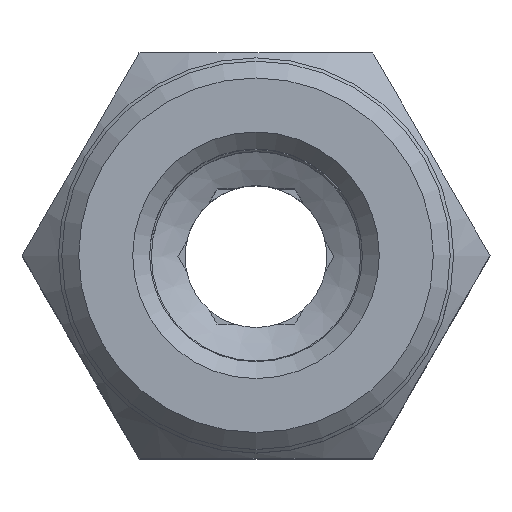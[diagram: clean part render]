
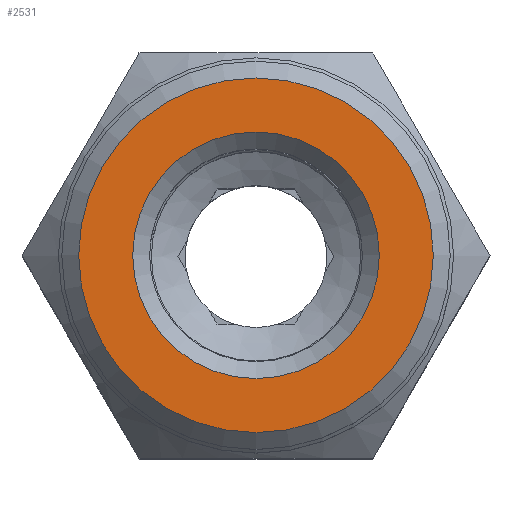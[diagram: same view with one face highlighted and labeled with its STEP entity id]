
A CAD part, top view. The second image highlights one B-rep face of the part: STEP entity #2531.
In plain terms, the highlighted planar face has unit normal (0, 0, 1) as drawn and (0, 1, 0) by its records, which use the part's own axes.
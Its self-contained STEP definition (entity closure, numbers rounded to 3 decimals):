
#1531=ORIENTED_EDGE('',*,*,#1781,.T.);
#1532=ORIENTED_EDGE('',*,*,#1782,.F.);
#1583=CIRCLE('',#2431,5.25);
#1584=CIRCLE('',#2433,3.65);
#1667=VERTEX_POINT('',#2789);
#1668=VERTEX_POINT('',#2792);
#1781=EDGE_CURVE('',#1667,#1667,#1583,.T.);
#1782=EDGE_CURVE('',#1668,#1668,#1584,.T.);
#1871=EDGE_LOOP('',(#1531));
#1872=EDGE_LOOP('',(#1532));
#1965=FACE_BOUND('',#1871,.T.);
#1966=FACE_BOUND('',#1872,.T.);
#2277=DIRECTION('',(0.,1.,0.));
#2278=DIRECTION('',(0.,0.,-5.25));
#2279=DIRECTION('',(0.,1.,0.));
#2280=DIRECTION('',(1.,0.,0.));
#2281=DIRECTION('',(0.,1.,0.));
#2282=DIRECTION('',(0.,0.,-3.65));
#2431=AXIS2_PLACEMENT_3D('',#2790,#2277,#2278);
#2432=AXIS2_PLACEMENT_3D('',#2791,#2279,#2280);
#2433=AXIS2_PLACEMENT_3D('',#2793,#2281,#2282);
#2472=PLANE('',#2432);
#2531=ADVANCED_FACE('',(#1965,#1966),#2472,.T.);
#2789=CARTESIAN_POINT('',(-6.527,-57.636,0.));
#2790=CARTESIAN_POINT('',(-1.277,-57.636,0.));
#2791=CARTESIAN_POINT('',(-1.277,-57.636,0.));
#2792=CARTESIAN_POINT('',(-4.927,-57.636,0.));
#2793=CARTESIAN_POINT('',(-1.277,-57.636,0.));
